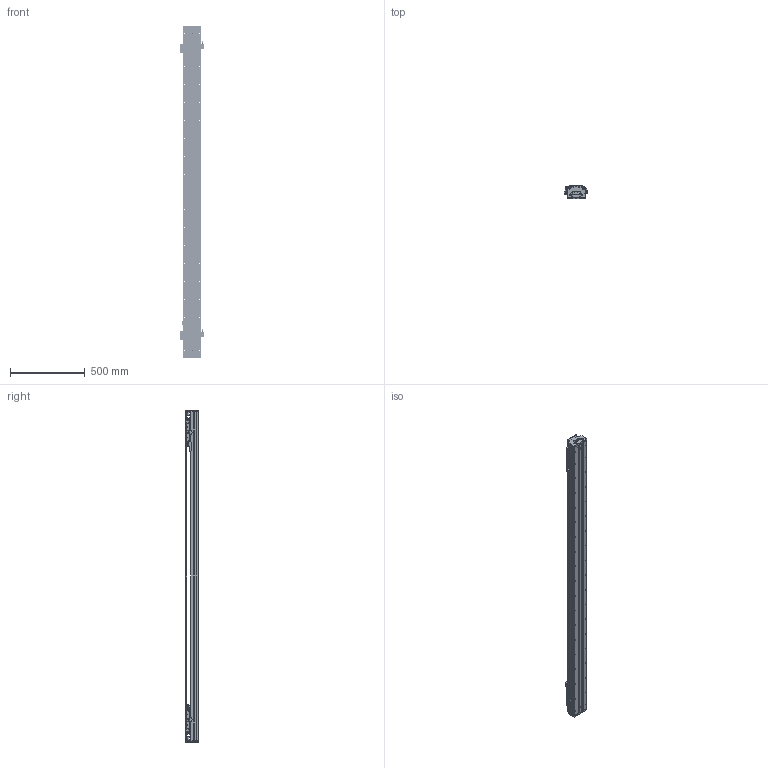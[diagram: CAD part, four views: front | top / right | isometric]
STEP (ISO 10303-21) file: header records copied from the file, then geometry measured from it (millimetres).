
FILE_DESCRIPTION (( 'STEP AP203' ), '1' );
FILE_NAME ('DKW120-2×B2-W060（T1700-L005-0.2）.STEP', '2021-09-24T02:47:47', ( '微软用户' ), ( '微软中国' ), 'SwSTEP 2.0', 'SolidWorks 2018', '' );
FILE_SCHEMA (( 'CONFIG_CONTROL_DESIGN' ));
Length unit declared in the file: millimetre
Products named in the file (24): DKW120-2×B2-W060（T1700-L005-0.2）; DKW-SG-GYP-H-00 嫖萇覜茼え; 12160-0000-003-00 DKW120詩湍嶺輸; B2-W060_00; 12160-0000-004-00  DKW120詩湍揤輸; DKW120-B15-T300-DZ-00 菁釱; DKW119-RU-DTJ-00 RU2黍杅芛盓殤; DKW120 单轴模组-拉钢带组件; MSB15-DG-U; B2-W060; BKMA01-W060-TRL280; 06652-0001-001-00 DKW120傷啣; EE_SX674A; RUS嫖掑喜; 06652-0001-004-00 DKW120嶺輸菜輸; DKW-DG-XJ-Z-00 笢潔滅袉砎蝶; Ru2; DKW-HXJ-JY-00 遣喳砎蝶; DKW-GYP-ZJ-00 笢潔嫖萇覜茼え; RUS嫖掑郪璃; 10940-0001-004-00 120詩湍裔啣; DKW-KGZ-ZJ-00 中间光电开关支架; 10980-0001-003-00 嫖萇羲壽嘐隅釱; 砎蝶猾沭
Assembly tree (41 placements, depth 3):
  DKW120-2×B2-W060（T1700-L005-0.2）
    DKW120-B15-T300-DZ-00 菁釱
    MSB15-DG-U  x2
    DKW120 单轴模组-拉钢带组件
      06652-0001-001-00 DKW120傷啣  x2
      06652-0001-004-00 DKW120嶺輸菜輸  x4
      DKW-HXJ-JY-00 遣喳砎蝶  x4
      10940-0001-004-00 120詩湍裔啣
      砎蝶猾沭  x2
      12160-0000-003-00 DKW120詩湍嶺輸  x2
      12160-0000-004-00  DKW120詩湍揤輸  x2
    BKMA01-W060-TRL280
    RUS嫖掑郪璃
      RUS嫖掑喜
      Ru2
    10980-0001-003-00 嫖萇羲壽嘐隅釱  x2
    B2-W060  x2
      DKW-SG-GYP-H-00 嫖萇覜茼え
      B2-W060_00
      DKW119-RU-DTJ-00 RU2黍杅芛盓殤
    EE_SX674A  x5
    Ru2
    DKW-DG-XJ-Z-00 笢潔滅袉砎蝶
    DKW-GYP-ZJ-00 笢潔嫖萇覜茼え
    DKW-KGZ-ZJ-00 中间光电开关支架
Bounding box: 154.1 x 84 x 2216 mm (x, y, z)
Volume: 8224682.8 mm3; surface area: 3189514.9 mm2
Topology: 60 solids, 158 shells, 6564 faces, 17854 edges, 11507 vertices
Faces by surface type: plane 3618, cylinder 1964, bspline 494, cone 488
Entity records: 143988 total; most frequent: CARTESIAN_POINT 49380, ORIENTED_EDGE 19569, DIRECTION 18224, EDGE_CURVE 9825, VERTEX_POINT 6449, AXIS2_PLACEMENT_3D 6124, VECTOR 5976, LINE 5976
